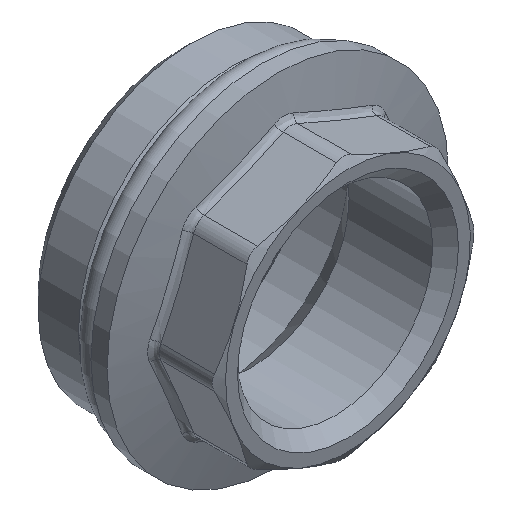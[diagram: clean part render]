
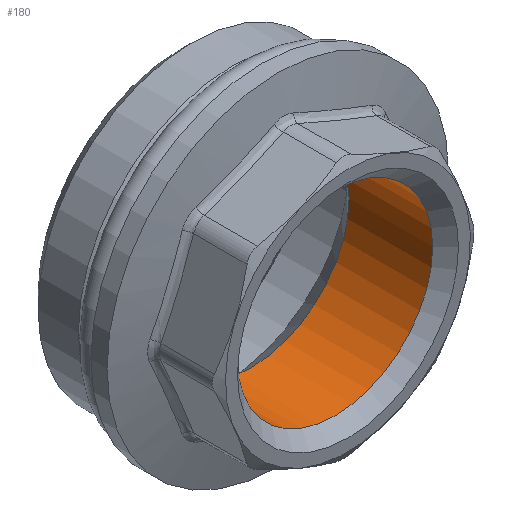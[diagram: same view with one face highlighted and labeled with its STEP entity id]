
A CAD part, isometric view. The second image highlights one B-rep face of the part: STEP entity #180.
In plain terms, the highlighted cylindrical face has radius 15.146 mm (diameter 30.292 mm), a full revolution.
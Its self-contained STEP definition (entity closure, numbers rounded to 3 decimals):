
#180=ADVANCED_FACE('',(#291,#293),#295,.F.);
#291=FACE_BOUND('',#292,.T.);
#292=EDGE_LOOP('',(#1554,#1555));
#293=FACE_OUTER_BOUND('',#294,.T.);
#294=EDGE_LOOP('',(#1556));
#295=CYLINDRICAL_SURFACE('',#296,15.146);
#296=AXIS2_PLACEMENT_3D('',#297,#298,#299);
#297=CARTESIAN_POINT('',(0.,16.3,0.));
#298=DIRECTION('',(0.,-1.,0.));
#299=DIRECTION('',(0.,0.,-1.));
#1554=ORIENTED_EDGE('',*,*,#1758,.T.);
#1555=ORIENTED_EDGE('',*,*,#1759,.T.);
#1556=ORIENTED_EDGE('',*,*,#1760,.F.);
#1758=EDGE_CURVE('',#1860,#1861,#1862,.T.);
#1759=EDGE_CURVE('',#1861,#1860,#1863,.T.);
#1760=EDGE_CURVE('',#1864,#1864,#1865,.F.);
#1860=VERTEX_POINT('',#2030);
#1861=VERTEX_POINT('',#2031);
#1862=CIRCLE('',#2032,15.146);
#1863=CIRCLE('',#2036,15.146);
#1864=VERTEX_POINT('',#2040);
#1865=CIRCLE('',#2041,15.146);
#2030=CARTESIAN_POINT('',(0.,4.07,15.146));
#2031=CARTESIAN_POINT('',(0.,4.07,-15.146));
#2032=AXIS2_PLACEMENT_3D('',#2033,#2034,#2035);
#2033=CARTESIAN_POINT('',(0.,4.07,0.));
#2034=DIRECTION('',(0.,1.,0.));
#2035=DIRECTION('',(0.,0.,1.));
#2036=AXIS2_PLACEMENT_3D('',#2037,#2038,#2039);
#2037=CARTESIAN_POINT('',(0.,4.07,0.));
#2038=DIRECTION('',(0.,1.,0.));
#2039=DIRECTION('',(0.,0.,-1.));
#2040=CARTESIAN_POINT('',(0.,-8.9,-15.146));
#2041=AXIS2_PLACEMENT_3D('',#2042,#2043,#2044);
#2042=CARTESIAN_POINT('',(0.,-8.9,0.));
#2043=DIRECTION('',(0.,-1.,0.));
#2044=DIRECTION('',(0.,0.,-1.));
